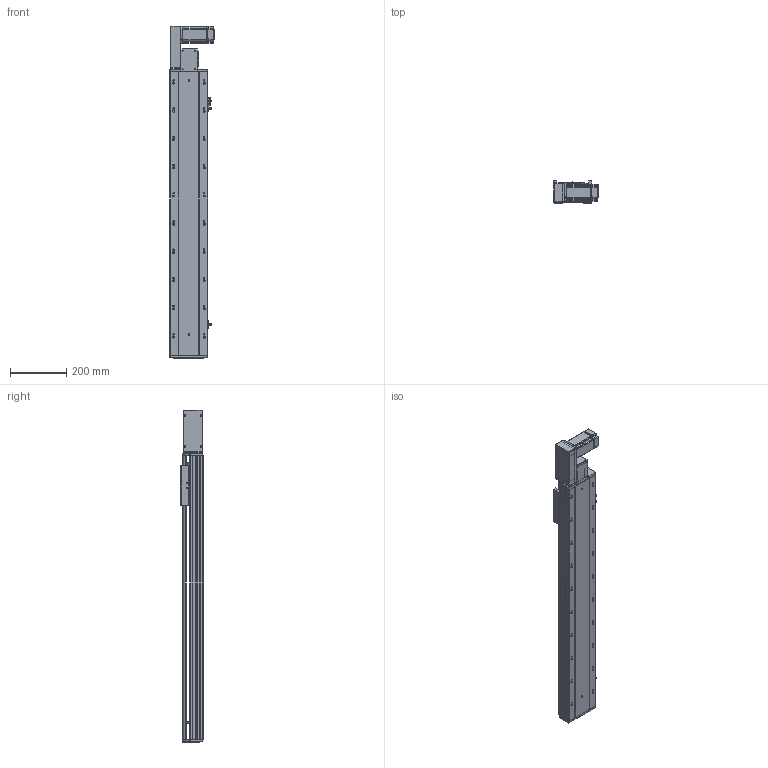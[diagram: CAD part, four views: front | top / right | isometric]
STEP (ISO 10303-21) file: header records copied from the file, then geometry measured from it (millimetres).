
FILE_DESCRIPTION (( 'STEP AP203' ), '1' );
FILE_NAME ('RY140-T-300-LK.SLDASM_750.step', '2021-03-01T06:35:12', ( '盈信电脑' ), ( '东莞市道滘镇水果街19号' ), 'SwSTEP 2.0', 'SolidWorks 2012', '' );
FILE_SCHEMA (( 'CONFIG_CONTROL_DESIGN' ));
Length unit declared in the file: millimetre
Products named in the file (18): RY140-T-300-LK.SLDASM_750; RY120-T蹟翐M4; 滅袉蝶18-10; RY140-T翋肮謫裔啣; RY140-T萇儂欶; 15; 侂狟400W侜督萇儂; RY140-T萇儂假蚾啣; RY120-T主同步轮轴承压盖; RY140-T翋肮祭謫盓傅釱; RY120-T肮祭湍揤踡輸2; RY120-T肮祭湍揤踡輸1; RY140綴裔啣; 覜茼ん672; RY120外置感应片(140共用）; RY140-T-300-DL倰第奻裔啣_750; RY140肮祭謫臏賑輸; RY140-T-300-DL倰第菁釱_750
Assembly tree (23 placements, depth 3):
  RY140-T-300-LK.SLDASM_750
    RY140-T-300-DL倰第菁釱_750
    RY140肮祭謫臏賑輸
    RY140-T-300-DL倰第奻裔啣_750
    RY140綴裔啣
    覜茼ん672  x3
    RY120外置感应片(140共用）
    RY120-T肮祭湍揤踡輸2
    RY120-T肮祭湍揤踡輸1
    RY140-T翋肮祭謫盓傅釱
    RY140-T萇儂假蚾啣
    侂狟400W侜督萇儂
      15
    RY120-T主同步轮轴承压盖
    RY120-T蹟翐M4  x4
    RY140-T萇儂欶
    滅袉蝶18-10  x2
    RY140-T翋肮謫裔啣
Bounding box: 157 x 78 x 1176.5 mm (x, y, z)
Volume: 3393220.5 mm3; surface area: 1281044.7 mm2
Topology: 22 solids, 22 shells, 2679 faces, 7377 edges, 4748 vertices
Faces by surface type: plane 1381, cylinder 996, cone 202, bspline 100
Entity records: 85385 total; most frequent: CARTESIAN_POINT 21007, ORIENTED_EDGE 13274, DIRECTION 12533, EDGE_CURVE 6637, VERTEX_POINT 4347, LINE 4221, VECTOR 4221, AXIS2_PLACEMENT_3D 4156
